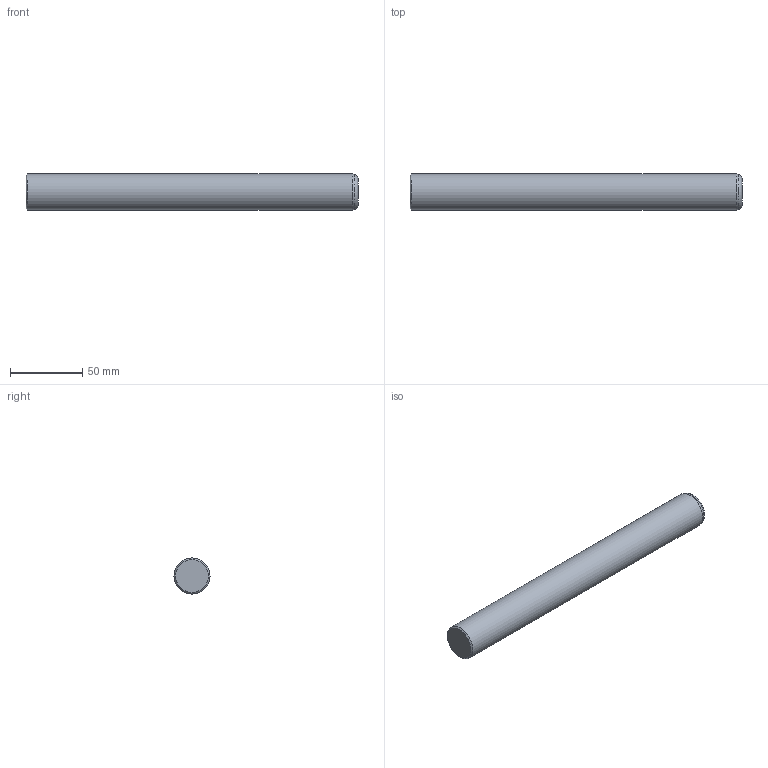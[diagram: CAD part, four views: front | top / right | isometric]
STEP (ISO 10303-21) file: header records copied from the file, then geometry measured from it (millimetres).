
FILE_DESCRIPTION(/* description */ ('Impex Ready, www.impex-ready.pl'),/* implementation_level */ '2;1');
FILE_NAME(/* name */ 'C:\Users\VIKKY\Nextcloud\SM\projekt 10 - części na stronę internetową\Pliki_3D_new\256 CIS Słup\256 CIS_STEP\CIS25230.ipt.step',/* time_stamp */ '2021-12-20T12:42:26+01:00',/* author */ ('SM'),/* organization */ (''),/* preprocessor_version */ 'ST-DEVELOPER v18.1',/* originating_system */ 'Autodesk Inventor 2021',/* authorisation */ '');
FILE_SCHEMA (('AUTOMOTIVE_DESIGN { 1 0 10303 214 3 1 1 }'));
Length unit declared in the file: millimetre
Products named in the file (1): CIS25230
Bounding box: 230 x 25 x 25 mm (x, y, z)
Volume: 112635.8 mm3; surface area: 18866.2 mm2
Topology: 1 solids, 1 shells, 6 faces, 12 edges, 8 vertices
Faces by surface type: cone 2, plane 2, torus 1, cylinder 1
Full cylindrical faces by diameter (mm): 25 x1
Entity records: 239 total; most frequent: DIRECTION 35, CARTESIAN_POINT 27, ORIENTED_EDGE 24, AXIS2_PLACEMENT_3D 16, EDGE_CURVE 12, CIRCLE 9, VERTEX_POINT 8, STYLED_ITEM 7
